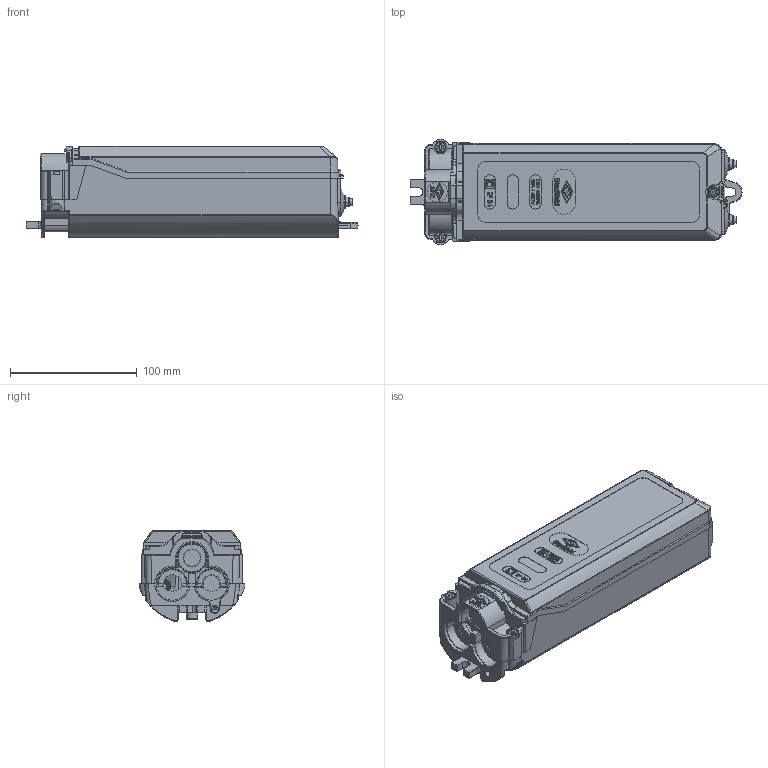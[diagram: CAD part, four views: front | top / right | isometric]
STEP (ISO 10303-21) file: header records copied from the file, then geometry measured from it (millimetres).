
FILE_DESCRIPTION (( 'STEP AP203' ), '1' );
FILE_NAME ('3D - HSW2310 Außenkontur.STEP', '2019-07-03T07:03:16', ( '' ), ( '' ), 'SwSTEP 2.0', 'SolidWorks 2013', '' );
FILE_SCHEMA (( 'CONFIG_CONTROL_DESIGN' ));
Products named in the file (1): 3D - HSW2310 Außenkontur
Bounding box: 262.08 x 83.5 x 71.86 mm (x, y, z)
Surface area: 93642.1 mm2 (no closed solid volume)
Topology: 0 solids, 25 shells, 1169 faces, 3949 edges, 2719 vertices
Faces by surface type: plane 544, cylinder 281, bspline 160, torus 91, cone 81, sphere 12
Entity records: 52989 total; most frequent: CARTESIAN_POINT 20762, ORIENTED_EDGE 6515, DIRECTION 6085, EDGE_CURVE 3939, VERTEX_POINT 2719, VECTOR 2349, LINE 2349, AXIS2_PLACEMENT_3D 1868
